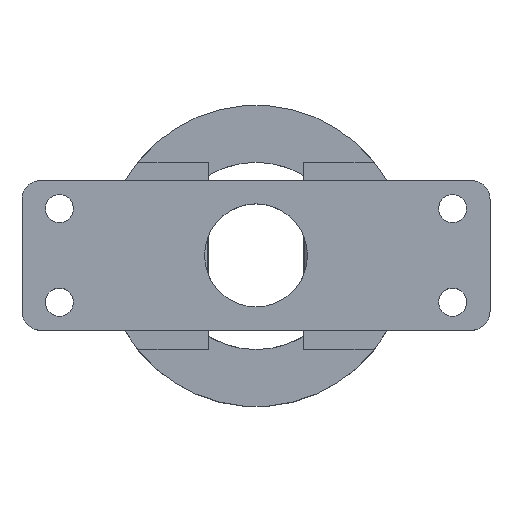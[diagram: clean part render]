
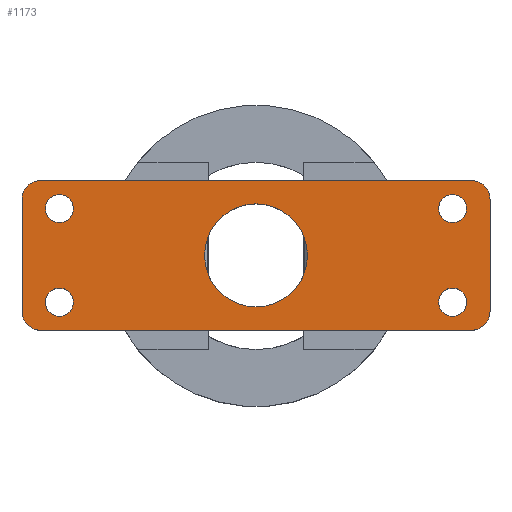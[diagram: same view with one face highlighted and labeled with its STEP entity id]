
A CAD part, top view. The second image highlights one B-rep face of the part: STEP entity #1173.
In plain terms, the highlighted planar face has unit normal (0, 0, 1).
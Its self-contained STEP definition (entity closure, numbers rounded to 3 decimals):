
#31=FACE_BOUND('',#175,.T.);
#32=FACE_BOUND('',#176,.T.);
#33=FACE_BOUND('',#177,.T.);
#34=FACE_BOUND('',#178,.T.);
#35=FACE_BOUND('',#179,.T.);
#58=PLANE('',#1291);
#113=FACE_OUTER_BOUND('',#174,.T.);
#174=EDGE_LOOP('',(#1005,#1006,#1007,#1008,#1009,#1010,#1011,#1012));
#175=EDGE_LOOP('',(#1013,#1014));
#176=EDGE_LOOP('',(#1015,#1016));
#177=EDGE_LOOP('',(#1017,#1018));
#178=EDGE_LOOP('',(#1019,#1020));
#179=EDGE_LOOP('',(#1021));
#221=LINE('',#1694,#344);
#227=LINE('',#1715,#350);
#250=LINE('',#1764,#373);
#299=LINE('',#1940,#422);
#344=VECTOR('',#1346,10.);
#350=VECTOR('',#1366,10.);
#373=VECTOR('',#1397,10.);
#422=VECTOR('',#1576,10.);
#446=CIRCLE('',#1214,2.);
#450=CIRCLE('',#1221,2.);
#451=CIRCLE('',#1224,2.);
#456=CIRCLE('',#1232,2.);
#469=CIRCLE('',#1252,1.5);
#470=CIRCLE('',#1253,1.5);
#471=CIRCLE('',#1255,1.5);
#472=CIRCLE('',#1256,1.5);
#473=CIRCLE('',#1258,1.5);
#474=CIRCLE('',#1259,1.5);
#475=CIRCLE('',#1261,1.5);
#476=CIRCLE('',#1262,1.5);
#477=CIRCLE('',#1264,5.5);
#490=VERTEX_POINT('',#1648);
#491=VERTEX_POINT('',#1650);
#511=VERTEX_POINT('',#1692);
#517=VERTEX_POINT('',#1708);
#518=VERTEX_POINT('',#1709);
#519=VERTEX_POINT('',#1714);
#538=VERTEX_POINT('',#1754);
#541=VERTEX_POINT('',#1762);
#562=VERTEX_POINT('',#1834);
#563=VERTEX_POINT('',#1835);
#564=VERTEX_POINT('',#1840);
#565=VERTEX_POINT('',#1841);
#566=VERTEX_POINT('',#1846);
#567=VERTEX_POINT('',#1847);
#568=VERTEX_POINT('',#1852);
#569=VERTEX_POINT('',#1853);
#570=VERTEX_POINT('',#1858);
#606=EDGE_CURVE('',#490,#491,#446,.T.);
#628=EDGE_CURVE('',#511,#490,#221,.T.);
#635=EDGE_CURVE('',#517,#518,#450,.T.);
#638=EDGE_CURVE('',#518,#519,#227,.T.);
#658=EDGE_CURVE('',#538,#511,#451,.T.);
#663=EDGE_CURVE('',#538,#541,#250,.T.);
#668=EDGE_CURVE('',#519,#541,#456,.T.);
#696=EDGE_CURVE('',#562,#563,#469,.T.);
#697=EDGE_CURVE('',#563,#562,#470,.T.);
#699=EDGE_CURVE('',#564,#565,#471,.T.);
#700=EDGE_CURVE('',#565,#564,#472,.T.);
#702=EDGE_CURVE('',#566,#567,#473,.T.);
#703=EDGE_CURVE('',#567,#566,#474,.T.);
#705=EDGE_CURVE('',#568,#569,#475,.T.);
#706=EDGE_CURVE('',#569,#568,#476,.T.);
#708=EDGE_CURVE('',#570,#570,#477,.T.);
#750=EDGE_CURVE('',#491,#517,#299,.T.);
#1005=ORIENTED_EDGE('',*,*,#606,.F.);
#1006=ORIENTED_EDGE('',*,*,#628,.F.);
#1007=ORIENTED_EDGE('',*,*,#658,.F.);
#1008=ORIENTED_EDGE('',*,*,#663,.T.);
#1009=ORIENTED_EDGE('',*,*,#668,.F.);
#1010=ORIENTED_EDGE('',*,*,#638,.F.);
#1011=ORIENTED_EDGE('',*,*,#635,.F.);
#1012=ORIENTED_EDGE('',*,*,#750,.F.);
#1013=ORIENTED_EDGE('',*,*,#696,.T.);
#1014=ORIENTED_EDGE('',*,*,#697,.T.);
#1015=ORIENTED_EDGE('',*,*,#699,.T.);
#1016=ORIENTED_EDGE('',*,*,#700,.T.);
#1017=ORIENTED_EDGE('',*,*,#702,.T.);
#1018=ORIENTED_EDGE('',*,*,#703,.T.);
#1019=ORIENTED_EDGE('',*,*,#705,.T.);
#1020=ORIENTED_EDGE('',*,*,#706,.T.);
#1021=ORIENTED_EDGE('',*,*,#708,.T.);
#1173=ADVANCED_FACE('',(#113,#31,#32,#33,#34,#35),#58,.T.);
#1214=AXIS2_PLACEMENT_3D('',#1651,#1321,#1322);
#1221=AXIS2_PLACEMENT_3D('',#1710,#1360,#1361);
#1224=AXIS2_PLACEMENT_3D('',#1755,#1388,#1389);
#1232=AXIS2_PLACEMENT_3D('',#1773,#1409,#1410);
#1252=AXIS2_PLACEMENT_3D('',#1836,#1460,#1461);
#1253=AXIS2_PLACEMENT_3D('',#1837,#1462,#1463);
#1255=AXIS2_PLACEMENT_3D('',#1842,#1467,#1468);
#1256=AXIS2_PLACEMENT_3D('',#1843,#1469,#1470);
#1258=AXIS2_PLACEMENT_3D('',#1848,#1474,#1475);
#1259=AXIS2_PLACEMENT_3D('',#1849,#1476,#1477);
#1261=AXIS2_PLACEMENT_3D('',#1854,#1481,#1482);
#1262=AXIS2_PLACEMENT_3D('',#1855,#1483,#1484);
#1264=AXIS2_PLACEMENT_3D('',#1859,#1488,#1489);
#1291=AXIS2_PLACEMENT_3D('',#1939,#1574,#1575);
#1321=DIRECTION('center_axis',(0.,0.,-1.));
#1322=DIRECTION('ref_axis',(-0.707,-0.707,0.));
#1346=DIRECTION('',(-1.,0.,0.));
#1360=DIRECTION('center_axis',(0.,0.,-1.));
#1361=DIRECTION('ref_axis',(-0.707,0.707,0.));
#1366=DIRECTION('',(1.,0.,0.));
#1388=DIRECTION('center_axis',(0.,0.,-1.));
#1389=DIRECTION('ref_axis',(0.707,-0.707,0.));
#1397=DIRECTION('',(0.,1.,0.));
#1409=DIRECTION('center_axis',(0.,0.,-1.));
#1410=DIRECTION('ref_axis',(0.707,0.707,0.));
#1460=DIRECTION('center_axis',(0.,0.,-1.));
#1461=DIRECTION('ref_axis',(1.,0.,0.));
#1462=DIRECTION('center_axis',(0.,0.,-1.));
#1463=DIRECTION('ref_axis',(1.,0.,0.));
#1467=DIRECTION('center_axis',(0.,0.,-1.));
#1468=DIRECTION('ref_axis',(1.,0.,0.));
#1469=DIRECTION('center_axis',(0.,0.,-1.));
#1470=DIRECTION('ref_axis',(1.,0.,0.));
#1474=DIRECTION('center_axis',(0.,0.,-1.));
#1475=DIRECTION('ref_axis',(1.,0.,0.));
#1476=DIRECTION('center_axis',(0.,0.,-1.));
#1477=DIRECTION('ref_axis',(1.,0.,0.));
#1481=DIRECTION('center_axis',(0.,0.,-1.));
#1482=DIRECTION('ref_axis',(1.,0.,0.));
#1483=DIRECTION('center_axis',(0.,0.,-1.));
#1484=DIRECTION('ref_axis',(1.,0.,0.));
#1488=DIRECTION('center_axis',(0.,0.,-1.));
#1489=DIRECTION('ref_axis',(-1.,0.,0.));
#1574=DIRECTION('center_axis',(0.,0.,1.));
#1575=DIRECTION('ref_axis',(1.,0.,0.));
#1576=DIRECTION('',(0.,1.,0.));
#1648=CARTESIAN_POINT('',(-23.,-8.,42.));
#1650=CARTESIAN_POINT('',(-25.,-6.,42.));
#1651=CARTESIAN_POINT('Origin',(-23.,-6.,42.));
#1692=CARTESIAN_POINT('',(23.,-8.,42.));
#1694=CARTESIAN_POINT('',(-25.,-8.,42.));
#1708=CARTESIAN_POINT('',(-25.,6.,42.));
#1709=CARTESIAN_POINT('',(-23.,8.,42.));
#1710=CARTESIAN_POINT('Origin',(-23.,6.,42.));
#1714=CARTESIAN_POINT('',(23.,8.,42.));
#1715=CARTESIAN_POINT('',(-25.,8.,42.));
#1754=CARTESIAN_POINT('',(25.,-6.,42.));
#1755=CARTESIAN_POINT('Origin',(23.,-6.,42.));
#1762=CARTESIAN_POINT('',(25.,6.,42.));
#1764=CARTESIAN_POINT('',(25.,0.,42.));
#1773=CARTESIAN_POINT('Origin',(23.,6.,42.));
#1834=CARTESIAN_POINT('',(-19.5,5.,42.));
#1835=CARTESIAN_POINT('',(-22.5,5.,42.));
#1836=CARTESIAN_POINT('Origin',(-21.,5.,42.));
#1837=CARTESIAN_POINT('Origin',(-21.,5.,42.));
#1840=CARTESIAN_POINT('',(22.5,-5.,42.));
#1841=CARTESIAN_POINT('',(19.5,-5.,42.));
#1842=CARTESIAN_POINT('Origin',(21.,-5.,42.));
#1843=CARTESIAN_POINT('Origin',(21.,-5.,42.));
#1846=CARTESIAN_POINT('',(22.5,5.,42.));
#1847=CARTESIAN_POINT('',(19.5,5.,42.));
#1848=CARTESIAN_POINT('Origin',(21.,5.,42.));
#1849=CARTESIAN_POINT('Origin',(21.,5.,42.));
#1852=CARTESIAN_POINT('',(-19.5,-5.,42.));
#1853=CARTESIAN_POINT('',(-22.5,-5.,42.));
#1854=CARTESIAN_POINT('Origin',(-21.,-5.,42.));
#1855=CARTESIAN_POINT('Origin',(-21.,-5.,42.));
#1858=CARTESIAN_POINT('',(5.5,0.,42.));
#1859=CARTESIAN_POINT('Origin',(0.,0.,42.));
#1939=CARTESIAN_POINT('Origin',(-25.,0.,42.));
#1940=CARTESIAN_POINT('',(-25.,0.,42.));
